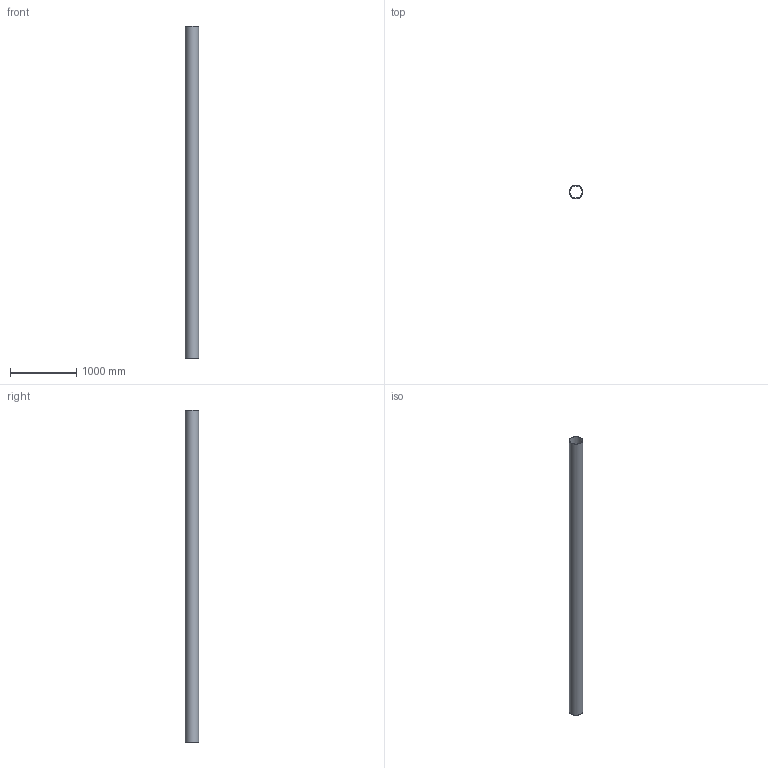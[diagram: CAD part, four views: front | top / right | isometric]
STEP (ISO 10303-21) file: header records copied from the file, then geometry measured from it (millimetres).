
FILE_DESCRIPTION(/* description */ (''),/* implementation_level */ '2;1');
FILE_NAME(/* name */ 'C:\Geberit-Teile\Export 2019\379.000.16.0\stp\370000.stp',/* time_stamp */ '2019-06-06T10:48:50+02:00',/* author */ ('JANAN'),/* organization */ (''),/* preprocessor_version */ 'ST-DEVELOPER v16.13',/* originating_system */ 'Autodesk Inventor 2018',/* authorisation */ '');
FILE_SCHEMA (('AUTOMOTIVE_DESIGN { 1 0 10303 214 3 1 1 }'));
Length unit declared in the file: millimetre
Products named in the file (1): Rohr PE-HD d200x6.2 L5000
Bounding box: 200 x 200 x 5000 mm (x, y, z)
Volume: 18874060.3 mm3; surface area: 6095956.2 mm2
Topology: 1 solids, 1 shells, 4 faces, 6 edges, 4 vertices
Faces by surface type: cylinder 2, plane 2
Full cylindrical faces by diameter (mm): 187.6 x1, 200 x1
Entity records: 131 total; most frequent: DIRECTION 18, CARTESIAN_POINT 13, AXIS2_PLACEMENT_3D 9, EDGE_LOOP 8, ORIENTED_EDGE 8, STYLED_ITEM 5, FACE_BOUND 4, FACE_OUTER_BOUND 4
